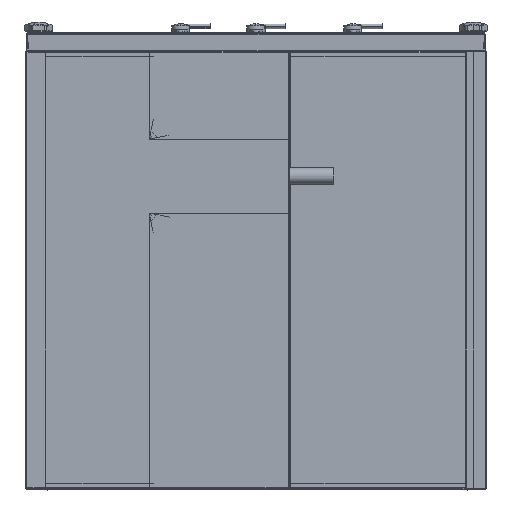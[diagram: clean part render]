
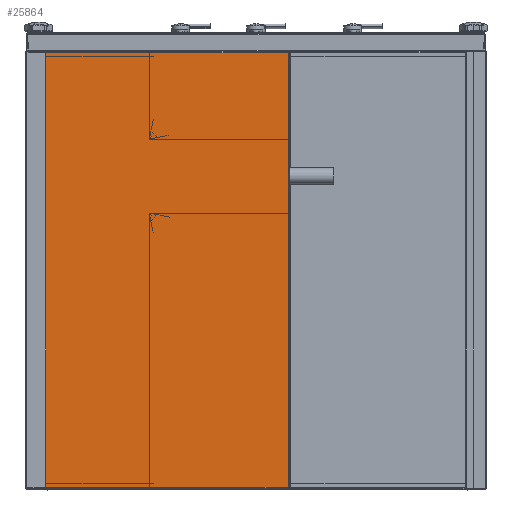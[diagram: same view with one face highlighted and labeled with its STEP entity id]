
A CAD part, front view. The second image highlights one B-rep face of the part: STEP entity #25864.
In plain terms, the highlighted planar face has unit normal (0, -1, 0).
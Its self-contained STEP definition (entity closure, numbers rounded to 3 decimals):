
#2390 = EDGE_CURVE ( 'NONE', #99661, #189494, #69711, .T. ) ;
#9013 = DIRECTION ( 'NONE',  ( 0., 1., 0. ) ) ;
#9922 = EDGE_LOOP ( 'NONE', ( #94976, #57754, #203818, #64898, #124867, #109025 ) ) ;
#15038 = DIRECTION ( 'NONE',  ( 1., 0., 0. ) ) ;
#15616 = CARTESIAN_POINT ( 'NONE',  ( 0., -40.9, 264.65 ) ) ;
#25040 = CARTESIAN_POINT ( 'NONE',  ( 0.9, -40.9, 264.65 ) ) ;
#25192 = LINE ( 'NONE', #212688, #181834 ) ;
#25864 = ADVANCED_FACE ( 'NONE', ( #109738 ), #72885, .F. ) ;
#26010 = CARTESIAN_POINT ( 'NONE',  ( 0., -40.9, 264.65 ) ) ;
#27082 = VECTOR ( 'NONE', #29112, 1000. ) ;
#29112 = DIRECTION ( 'NONE',  ( 0., 0., -1. ) ) ;
#34128 = DIRECTION ( 'NONE',  ( 1., 0., 0. ) ) ;
#35673 = VECTOR ( 'NONE', #15038, 1000. ) ;
#46575 = EDGE_CURVE ( 'NONE', #75592, #189494, #156720, .T. ) ;
#48000 = VECTOR ( 'NONE', #34128, 1000. ) ;
#50463 = VECTOR ( 'NONE', #89769, 1000. ) ;
#51712 = LINE ( 'NONE', #184125, #35673 ) ;
#55707 = VERTEX_POINT ( 'NONE', #209456 ) ;
#57754 = ORIENTED_EDGE ( 'NONE', *, *, #46575, .T. ) ;
#64898 = ORIENTED_EDGE ( 'NONE', *, *, #141961, .F. ) ;
#69711 = LINE ( 'NONE', #167867, #27082 ) ;
#72885 = PLANE ( 'NONE',  #127915 ) ;
#75592 = VERTEX_POINT ( 'NONE', #172668 ) ;
#89769 = DIRECTION ( 'NONE',  ( 1., 0., 0. ) ) ;
#94976 = ORIENTED_EDGE ( 'NONE', *, *, #114602, .T. ) ;
#96337 = EDGE_CURVE ( 'NONE', #190345, #114500, #155439, .T. ) ;
#99661 = VERTEX_POINT ( 'NONE', #126707 ) ;
#109025 = ORIENTED_EDGE ( 'NONE', *, *, #96337, .T. ) ;
#109738 = FACE_OUTER_BOUND ( 'NONE', #9922, .T. ) ;
#110325 = VECTOR ( 'NONE', #160915, 1000. ) ;
#114500 = VERTEX_POINT ( 'NONE', #122365 ) ;
#114602 = EDGE_CURVE ( 'NONE', #114500, #75592, #51712, .T. ) ;
#122365 = CARTESIAN_POINT ( 'NONE',  ( 0.9, -40.9, -264.65 ) ) ;
#124867 = ORIENTED_EDGE ( 'NONE', *, *, #176607, .F. ) ;
#125434 = CARTESIAN_POINT ( 'NONE',  ( 0., -40.9, -264.65 ) ) ;
#126707 = CARTESIAN_POINT ( 'NONE',  ( 319., -40.9, 264.65 ) ) ;
#127915 = AXIS2_PLACEMENT_3D ( 'NONE', #26010, #9013, #177395 ) ;
#141961 = EDGE_CURVE ( 'NONE', #55707, #99661, #25192, .T. ) ;
#154076 = CARTESIAN_POINT ( 'NONE',  ( 319., -40.9, -264.65 ) ) ;
#154780 = CARTESIAN_POINT ( 'NONE',  ( 0.9, -40.9, 264.65 ) ) ;
#155439 = LINE ( 'NONE', #25040, #110325 ) ;
#156720 = LINE ( 'NONE', #125434, #50463 ) ;
#159608 = LINE ( 'NONE', #15616, #48000 ) ;
#160915 = DIRECTION ( 'NONE',  ( 0., 0., -1. ) ) ;
#167867 = CARTESIAN_POINT ( 'NONE',  ( 319., -40.9, 264.65 ) ) ;
#172668 = CARTESIAN_POINT ( 'NONE',  ( 294.9, -40.9, -264.65 ) ) ;
#176607 = EDGE_CURVE ( 'NONE', #190345, #55707, #159608, .T. ) ;
#177395 = DIRECTION ( 'NONE',  ( 0., 0., 1. ) ) ;
#181834 = VECTOR ( 'NONE', #196378, 1000. ) ;
#184125 = CARTESIAN_POINT ( 'NONE',  ( 0., -40.9, -264.65 ) ) ;
#189494 = VERTEX_POINT ( 'NONE', #154076 ) ;
#190345 = VERTEX_POINT ( 'NONE', #154780 ) ;
#196378 = DIRECTION ( 'NONE',  ( 1., 0., 0. ) ) ;
#203818 = ORIENTED_EDGE ( 'NONE', *, *, #2390, .F. ) ;
#209456 = CARTESIAN_POINT ( 'NONE',  ( 274.9, -40.9, 264.65 ) ) ;
#212688 = CARTESIAN_POINT ( 'NONE',  ( 0., -40.9, 264.65 ) ) ;
